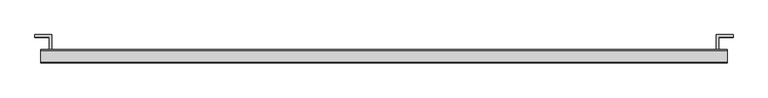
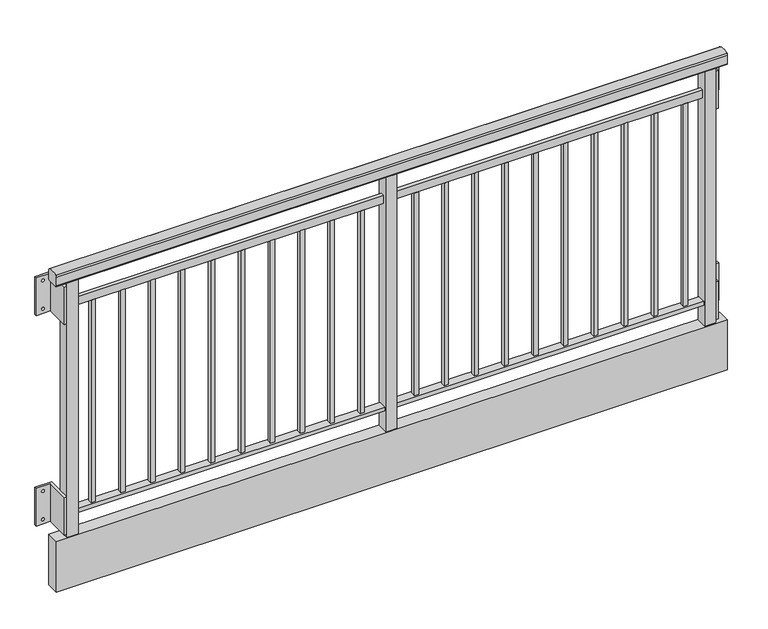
"""IFC4 building model written with IfcOpenShell, lengths in millimetres: proxy geometry, Specialty-Equipment_Endurable-Building-Products_Juliet-Balconies : Open Midrail Picket Railing."""

from ifc_helpers import new_model, si_unit, point, frame, frame_2d, origin, origin_with_axes, place, context, project, spatial, polyline, circle_curve, trimmed, segment, composite_curve, outline, extrude, source, transform, mapped, element, save
from ifc_brep_helpers import plane_surface, revolved_surface, advanced_brep


def specialty_equipment_468dc1dd(model_context):
    return source(origin(), model_context, "Body", "SolidModel", [
        extrude(outline(polyline([(1197.76875, -73.10755), (1197.76875, -87.22995), (21.43125, -87.22995), (21.43125, -73.10755), (1197.76875, -73.10755)])), frame((0.0, 0.0, 916.4066), z_axis=(0.0, 0.0, 1.0), x_axis=(1.0, 0.0, 0.0)), (0.0, 0.0, 1.0), 31.75),
        extrude(outline(polyline([(-1197.76875, -73.10755), (-21.43125, -73.10755), (-21.43125, -87.22995), (-1197.76875, -87.22995), (-1197.76875, -73.10755)])), frame((0.0, 0.0, 916.4066), z_axis=(0.0, 0.0, 1.0), x_axis=(1.0, 0.0, 0.0)), (0.0, 0.0, 1.0), 31.75),
        extrude(outline(polyline([(1140.22505, -72.23125), (1140.22505, -88.10625), (1124.35005, -88.10625), (1124.35005, -72.23125), (1140.22505, -72.23125)])), frame((0.0, 0.0, 97.5357165), z_axis=(0.0, 0.0, 1.0), x_axis=(1.0, 0.0, 0.0)), (0.0, 0.0, 1.0), 818.8523438),
        extrude(outline(polyline([(1025.92505, -72.23125), (1025.92505, -88.10625), (1010.05005, -88.10625), (1010.05005, -72.23125), (1025.92505, -72.23125)])), frame((0.0, 0.0, 97.5357165), z_axis=(0.0, 0.0, 1.0), x_axis=(1.0, 0.0, 0.0)), (0.0, 0.0, 1.0), 818.8523438),
        extrude(outline(polyline([(911.62505, -72.23125), (911.62505, -88.10625), (895.75005, -88.10625), (895.75005, -72.23125), (911.62505, -72.23125)])), frame((0.0, 0.0, 97.5357165), z_axis=(0.0, 0.0, 1.0), x_axis=(1.0, 0.0, 0.0)), (0.0, 0.0, 1.0), 818.8523438),
        extrude(outline(polyline([(797.32505, -72.23125), (797.32505, -88.10625), (781.45005, -88.10625), (781.45005, -72.23125), (797.32505, -72.23125)])), frame((0.0, 0.0, 97.5357165), z_axis=(0.0, 0.0, 1.0), x_axis=(1.0, 0.0, 0.0)), (0.0, 0.0, 1.0), 818.8523438),
        extrude(outline(polyline([(683.02505, -72.23125), (683.02505, -88.10625), (667.15005, -88.10625), (667.15005, -72.23125), (683.02505, -72.23125)])), frame((0.0, 0.0, 97.5357165), z_axis=(0.0, 0.0, 1.0), x_axis=(1.0, 0.0, 0.0)), (0.0, 0.0, 1.0), 818.8523438),
        extrude(outline(polyline([(568.72505, -72.23125), (568.72505, -88.10625), (552.85005, -88.10625), (552.85005, -72.23125), (568.72505, -72.23125)])), frame((0.0, 0.0, 97.5357165), z_axis=(0.0, 0.0, 1.0), x_axis=(1.0, 0.0, 0.0)), (0.0, 0.0, 1.0), 818.8523438),
        extrude(outline(polyline([(454.42505, -72.23125), (454.42505, -88.10625), (438.55005, -88.10625), (438.55005, -72.23125), (454.42505, -72.23125)])), frame((0.0, 0.0, 97.5357165), z_axis=(0.0, 0.0, 1.0), x_axis=(1.0, 0.0, 0.0)), (0.0, 0.0, 1.0), 818.8523438),
        extrude(outline(polyline([(340.12505, -72.23125), (340.12505, -88.10625), (324.25005, -88.10625), (324.25005, -72.23125), (340.12505, -72.23125)])), frame((0.0, 0.0, 97.5357165), z_axis=(0.0, 0.0, 1.0), x_axis=(1.0, 0.0, 0.0)), (0.0, 0.0, 1.0), 818.8523438),
        extrude(outline(polyline([(225.82505, -72.23125), (225.82505, -88.10625), (209.95005, -88.10625), (209.95005, -72.23125), (225.82505, -72.23125)])), frame((0.0, 0.0, 97.5357165), z_axis=(0.0, 0.0, 1.0), x_axis=(1.0, 0.0, 0.0)), (0.0, 0.0, 1.0), 818.8523438),
        extrude(outline(polyline([(-1140.22505, -72.23125), (-1124.35005, -72.23125), (-1124.35005, -88.10625), (-1140.22505, -88.10625), (-1140.22505, -72.23125)])), frame((0.0, 0.0, 97.536), z_axis=(0.0, 0.0, 1.0), x_axis=(1.0, 0.0, 0.0)), (0.0, 0.0, 1.0), 818.8523438),
        extrude(outline(polyline([(-1025.92505, -72.23125), (-1010.05005, -72.23125), (-1010.05005, -88.10625), (-1025.92505, -88.10625), (-1025.92505, -72.23125)])), frame((0.0, 0.0, 97.536), z_axis=(0.0, 0.0, 1.0), x_axis=(1.0, 0.0, 0.0)), (0.0, 0.0, 1.0), 818.8523438),
        extrude(outline(polyline([(-911.62505, -72.23125), (-895.75005, -72.23125), (-895.75005, -88.10625), (-911.62505, -88.10625), (-911.62505, -72.23125)])), frame((0.0, 0.0, 97.536), z_axis=(0.0, 0.0, 1.0), x_axis=(1.0, 0.0, 0.0)), (0.0, 0.0, 1.0), 818.8523438),
        extrude(outline(polyline([(-797.32505, -72.23125), (-781.45005, -72.23125), (-781.45005, -88.10625), (-797.32505, -88.10625), (-797.32505, -72.23125)])), frame((0.0, 0.0, 97.536), z_axis=(0.0, 0.0, 1.0), x_axis=(1.0, 0.0, 0.0)), (0.0, 0.0, 1.0), 818.8523438),
        extrude(outline(polyline([(-683.02505, -72.23125), (-667.15005, -72.23125), (-667.15005, -88.10625), (-683.02505, -88.10625), (-683.02505, -72.23125)])), frame((0.0, 0.0, 97.536), z_axis=(0.0, 0.0, 1.0), x_axis=(1.0, 0.0, 0.0)), (0.0, 0.0, 1.0), 818.8523438),
        extrude(outline(polyline([(-568.72505, -72.23125), (-552.85005, -72.23125), (-552.85005, -88.10625), (-568.72505, -88.10625), (-568.72505, -72.23125)])), frame((0.0, 0.0, 97.536), z_axis=(0.0, 0.0, 1.0), x_axis=(1.0, 0.0, 0.0)), (0.0, 0.0, 1.0), 818.8523438),
        extrude(outline(polyline([(-454.42505, -72.23125), (-438.55005, -72.23125), (-438.55005, -88.10625), (-454.42505, -88.10625), (-454.42505, -72.23125)])), frame((0.0, 0.0, 97.536), z_axis=(0.0, 0.0, 1.0), x_axis=(1.0, 0.0, 0.0)), (0.0, 0.0, 1.0), 818.8523438),
        extrude(outline(polyline([(-340.12505, -72.23125), (-324.25005, -72.23125), (-324.25005, -88.10625), (-340.12505, -88.10625), (-340.12505, -72.23125)])), frame((0.0, 0.0, 97.536), z_axis=(0.0, 0.0, 1.0), x_axis=(1.0, 0.0, 0.0)), (0.0, 0.0, 1.0), 818.8523438),
        extrude(outline(polyline([(-225.82505, -72.23125), (-209.95005, -72.23125), (-209.95005, -88.10625), (-225.82505, -88.10625), (-225.82505, -72.23125)])), frame((0.0, 0.0, 97.536), z_axis=(0.0, 0.0, 1.0), x_axis=(1.0, 0.0, 0.0)), (0.0, 0.0, 1.0), 818.8523438),
        extrude(outline(polyline([(111.52505, -72.23125), (111.52505, -88.10625), (95.65005, -88.10625), (95.65005, -72.23125), (111.52505, -72.23125)])), frame((0.0, 0.0, 97.5357165), z_axis=(0.0, 0.0, 1.0), x_axis=(1.0, 0.0, 0.0)), (0.0, 0.0, 1.0), 818.8523438),
        extrude(outline(polyline([(-111.52505, -72.23125), (-95.65005, -72.23125), (-95.65005, -88.10625), (-111.52505, -88.10625), (-111.52505, -72.23125)])), frame((0.0, 0.0, 97.536), z_axis=(0.0, 0.0, 1.0), x_axis=(1.0, 0.0, 0.0)), (0.0, 0.0, 1.0), 818.8523438),
        extrude(outline(polyline([(-1197.76875, -63.86195), (-21.43125, -63.86195), (-21.43125, -96.47555), (-1197.76875, -96.47555), (-1197.76875, -63.86195)])), frame((0.0, 0.0, 82.55), z_axis=(0.0, 0.0, 1.0), x_axis=(1.0, 0.0, 0.0)), (0.0, 0.0, 1.0), 14.986),
        extrude(outline(polyline([(21.43125, -58.7375), (21.43125, -101.6), (-21.43125, -101.6), (-21.43125, -58.7375), (21.43125, -58.7375)])), origin_with_axes(), (0.0, 0.0, 1.0), 1028.7),
        extrude(outline(polyline([(21.43125, -63.86195), (1197.76875, -63.86195), (1197.76875, -96.47555), (21.43125, -96.47555), (21.43125, -63.86195)])), frame((0.0, 0.0, 82.55), z_axis=(0.0, 0.0, 1.0), x_axis=(1.0, 0.0, 0.0)), (0.0, 0.0, 1.0), 14.986),
        extrude(outline(polyline([(1282.7, -54.76875), (1282.7, -105.56875), (-1282.7, -105.56875), (-1282.7, -54.76875), (1282.7, -54.76875)])), frame((0.0, 0.0, -203.2), z_axis=(0.0, 0.0, 1.0), x_axis=(1.0, 0.0, 0.0)), (0.0, 0.0, 1.0), 203.2),
        extrude(outline(polyline([(-1197.76875, -58.7375), (-1197.76875, -101.6), (-1240.63125, -101.6), (-1240.63125, -58.7375), (-1197.76875, -58.7375)])), origin_with_axes(), (0.0, 0.0, 1.0), 1028.7),
        extrude(outline(polyline([(1240.63125, -58.7375), (1240.63125, -101.6), (1197.76875, -101.6), (1197.76875, -58.7375), (1240.63125, -58.7375)])), origin_with_axes(), (0.0, 0.0, 1.0), 1028.7),
        extrude(outline(composite_curve([segment(polyline([(-54.76875, 1069.1003287), (-54.76875, 1035.05)]), True, "CONTINUOUS"), segment(trimmed(circle_curve(frame_2d((-61.11875, 1035.05)), 6.35), [point((-54.76875, 1035.05))], [point((-61.11875, 1028.7))], False, "CARTESIAN"), True, "CONTINUOUS"), segment(polyline([(-61.11875, 1028.7), (-99.21875, 1028.7)]), True, "CONTINUOUS"), segment(trimmed(circle_curve(frame_2d((-99.21875, 1035.05)), 6.35), [point((-99.21875, 1028.7))], [point((-105.56875, 1035.05))], False, "CARTESIAN"), True, "CONTINUOUS"), segment(polyline([(-105.56875, 1035.05), (-105.56875, 1069.1003287)]), True, "CONTINUOUS"), segment(trimmed(circle_curve(frame_2d((-99.21875, 1069.1003287)), 6.35), [point((-105.56875, 1069.1003287))], [point((-101.8018008, 1074.9012207))], False, "CARTESIAN"), True, "CONTINUOUS"), segment(trimmed(circle_curve(frame_2d((-80.16875, 1026.31875)), 53.18125), [point((-101.8018008, 1074.9012207))], [point((-58.5356992, 1074.9012207))], False, "CARTESIAN"), True, "CONTINUOUS"), segment(trimmed(circle_curve(frame_2d((-61.11875, 1069.1003287)), 6.35), [point((-58.5356992, 1074.9012207))], [point((-54.76875, 1069.1003287))], False, "CARTESIAN"), True, "CONTINUOUS")], self_intersect=False)), frame((-1282.7, 0.0, 0.0), z_axis=(1.0, 0.0, 0.0), x_axis=(0.0, 1.0, 0.0)), (0.0, 0.0, 1.0), 2565.4),
        advanced_brep(
        [(1240.63125, -101.6, 165.1), (1250.15625, -101.6, 165.1), (1250.15625, -9.525, 165.1), (1304.13125, -9.525, 165.1), (1304.13125, 0.0, 165.1), (1240.63125, 0.0, 165.1), (1240.63125, -101.6, 12.7), (1240.63125, 0.0, 12.7), (1304.13125, 0.0, 12.7), (1304.13125, -9.525, 12.7), (1250.15625, -9.525, 12.7), (1250.15625, -101.6, 12.7), (1273.175, 0.0, 146.05), (1284.2875, 0.0, 146.05), (1273.175, 0.0, 31.75), (1284.2875, 0.0, 31.75), (1284.2875, -9.525, 146.05), (1273.175, -9.525, 146.05), (1284.2875, -9.525, 31.75), (1273.175, -9.525, 31.75)],
        [
            (0, 1),
            (1, 2),
            (2, 3),
            (3, 4),
            (4, 5),
            (5, 0),
            (6, 7),
            (7, 8),
            (8, 9),
            (9, 10),
            (10, 11),
            (11, 6),
            (5, 7),
            (6, 0),
            (4, 8),
            (12, 13, circle_curve(frame((1278.73125, 0.0, 146.05), z_axis=(0.0, -1.0, 0.0), x_axis=(-1.0, 0.0, 0.0)), 5.55625)),
            (13, 12, circle_curve(frame((1278.73125, 0.0, 146.05), z_axis=(0.0, -1.0, 0.0), x_axis=(-1.0, 0.0, 0.0)), 5.55625)),
            (14, 15, circle_curve(frame((1278.73125, 0.0, 31.75), z_axis=(0.0, -1.0, 0.0), x_axis=(-1.0, 0.0, 0.0)), 5.55625)),
            (15, 14, circle_curve(frame((1278.73125, 0.0, 31.75), z_axis=(0.0, -1.0, 0.0), x_axis=(-1.0, 0.0, 0.0)), 5.55625)),
            (3, 9),
            (2, 10),
            (16, 17, circle_curve(frame((1278.73125, -9.525, 146.05), z_axis=(0.0, 1.0, 0.0), x_axis=(-1.0, 0.0, 0.0)), 5.55625)),
            (17, 16, circle_curve(frame((1278.73125, -9.525, 146.05), z_axis=(0.0, 1.0, 0.0), x_axis=(-1.0, 0.0, 0.0)), 5.55625)),
            (18, 19, circle_curve(frame((1278.73125, -9.525, 31.75), z_axis=(0.0, 1.0, 0.0), x_axis=(-1.0, 0.0, 0.0)), 5.55625)),
            (19, 18, circle_curve(frame((1278.73125, -9.525, 31.75), z_axis=(0.0, 1.0, 0.0), x_axis=(-1.0, 0.0, 0.0)), 5.55625)),
            (1, 11),
            (16, 13),
            (12, 17),
            (18, 15),
            (14, 19),
        ],
        [
            plane_surface(frame((1240.63125, -101.6, 165.1), z_axis=(0.0, 0.0, 1.0), x_axis=(1.0, 0.0, 0.0))),
            plane_surface(frame((1240.63125, -101.6, 12.7), z_axis=(0.0, 0.0, -1.0), x_axis=(-1.0, 0.0, 0.0))),
            plane_surface(frame((1240.63125, 0.0, 165.1), z_axis=(-1.0, 0.0, 0.0), x_axis=(0.0, 0.0, -1.0))),
            plane_surface(frame((1304.13125, 0.0, 165.1), z_axis=(0.0, 1.0, 0.0), x_axis=(0.0, 0.0, -1.0))),
            plane_surface(frame((1304.13125, -9.525, 165.1), z_axis=(1.0, 0.0, 0.0), x_axis=(0.0, 0.0, -1.0))),
            plane_surface(frame((1250.15625, -9.525, 165.1), z_axis=(0.0, -1.0, 0.0), x_axis=(0.0, 0.0, -1.0))),
            plane_surface(frame((1250.15625, -101.6, 165.1), z_axis=(1.0, 0.0, 0.0), x_axis=(0.0, 0.0, -1.0))),
            plane_surface(frame((1240.63125, -101.6, 165.1), z_axis=(0.0, -1.0, 0.0), x_axis=(0.0, 0.0, -1.0))),
            revolved_surface(polyline([(1273.175, -9.525, 146.05), (1273.175, 0.0, 146.05)]), (1278.73125, 0.0, 146.05), (0.0, -1.0, 0.0)),
            revolved_surface(polyline([(1273.175, -9.525, 31.75), (1273.175, 0.0, 31.75)]), (1278.73125, 0.0, 31.75), (0.0, -1.0, 0.0)),
        ],
        [
            (0, [[1, 2, 3, 4, 5, 6]]),
            (1, [[7, 8, 9, 10, 11, 12]]),
            (2, [[-6, 13, -7, 14]]),
            (3, [[-5, 15, -8, -13], [16, 17], [18, 19]]),
            (4, [[-4, 20, -9, -15]]),
            (5, [[-3, 21, -10, -20], [22, 23], [24, 25]]),
            (6, [[-2, 26, -11, -21]]),
            (7, [[-1, -14, -12, -26]]),
            (8, [[27, -16, 28, -22]]),
            (8, [[-27, -23, -28, -17]]),
            (9, [[29, -18, 30, -24]]),
            (9, [[-29, -25, -30, -19]]),
        ],
    ),
        advanced_brep(
        [(1240.63125, -101.6, 1016.0), (1250.15625, -101.6, 1016.0), (1250.15625, -9.525, 1016.0), (1304.13125, -9.525, 1016.0), (1304.13125, 0.0, 1016.0), (1240.63125, 0.0, 1016.0), (1240.63125, -101.6, 863.6), (1240.63125, 0.0, 863.6), (1304.13125, 0.0, 863.6), (1304.13125, -9.525, 863.6), (1250.15625, -9.525, 863.6), (1250.15625, -101.6, 863.6), (1273.175, 0.0, 996.95), (1284.2875, 0.0, 996.95), (1273.175, 0.0, 882.65), (1284.2875, 0.0, 882.65), (1284.2875, -9.525, 996.95), (1273.175, -9.525, 996.95), (1284.2875, -9.525, 882.65), (1273.175, -9.525, 882.65)],
        [
            (0, 1),
            (1, 2),
            (2, 3),
            (3, 4),
            (4, 5),
            (5, 0),
            (6, 7),
            (7, 8),
            (8, 9),
            (9, 10),
            (10, 11),
            (11, 6),
            (5, 7),
            (6, 0),
            (4, 8),
            (12, 13, circle_curve(frame((1278.73125, 0.0, 996.95), z_axis=(0.0, -1.0, 0.0), x_axis=(-1.0, 0.0, 0.0)), 5.55625)),
            (13, 12, circle_curve(frame((1278.73125, 0.0, 996.95), z_axis=(0.0, -1.0, 0.0), x_axis=(-1.0, 0.0, 0.0)), 5.55625)),
            (14, 15, circle_curve(frame((1278.73125, 0.0, 882.65), z_axis=(0.0, -1.0, 0.0), x_axis=(-1.0, 0.0, 0.0)), 5.55625)),
            (15, 14, circle_curve(frame((1278.73125, 0.0, 882.65), z_axis=(0.0, -1.0, 0.0), x_axis=(-1.0, 0.0, 0.0)), 5.55625)),
            (3, 9),
            (2, 10),
            (16, 17, circle_curve(frame((1278.73125, -9.525, 996.95), z_axis=(0.0, 1.0, 0.0), x_axis=(-1.0, 0.0, 0.0)), 5.55625)),
            (17, 16, circle_curve(frame((1278.73125, -9.525, 996.95), z_axis=(0.0, 1.0, 0.0), x_axis=(-1.0, 0.0, 0.0)), 5.55625)),
            (18, 19, circle_curve(frame((1278.73125, -9.525, 882.65), z_axis=(0.0, 1.0, 0.0), x_axis=(-1.0, 0.0, 0.0)), 5.55625)),
            (19, 18, circle_curve(frame((1278.73125, -9.525, 882.65), z_axis=(0.0, 1.0, 0.0), x_axis=(-1.0, 0.0, 0.0)), 5.55625)),
            (1, 11),
            (16, 13),
            (12, 17),
            (18, 15),
            (14, 19),
        ],
        [
            plane_surface(frame((1240.63125, -101.6, 1016.0), z_axis=(0.0, 0.0, 1.0), x_axis=(1.0, 0.0, 0.0))),
            plane_surface(frame((1240.63125, -101.6, 863.6), z_axis=(0.0, 0.0, -1.0), x_axis=(-1.0, 0.0, 0.0))),
            plane_surface(frame((1240.63125, 0.0, 1016.0), z_axis=(-1.0, 0.0, 0.0), x_axis=(0.0, 0.0, -1.0))),
            plane_surface(frame((1304.13125, 0.0, 1016.0), z_axis=(0.0, 1.0, 0.0), x_axis=(0.0, 0.0, -1.0))),
            plane_surface(frame((1304.13125, -9.525, 1016.0), z_axis=(1.0, 0.0, 0.0), x_axis=(0.0, 0.0, -1.0))),
            plane_surface(frame((1250.15625, -9.525, 1016.0), z_axis=(0.0, -1.0, 0.0), x_axis=(0.0, 0.0, -1.0))),
            plane_surface(frame((1250.15625, -101.6, 1016.0), z_axis=(1.0, 0.0, 0.0), x_axis=(0.0, 0.0, -1.0))),
            plane_surface(frame((1240.63125, -101.6, 1016.0), z_axis=(0.0, -1.0, 0.0), x_axis=(0.0, 0.0, -1.0))),
            revolved_surface(polyline([(1273.175, -9.525, 996.95), (1273.175, 0.0, 996.95)]), (1278.73125, 0.0, 996.95), (0.0, -1.0, 0.0)),
            revolved_surface(polyline([(1273.175, -9.525, 882.65), (1273.175, 0.0, 882.65)]), (1278.73125, 0.0, 882.65), (0.0, -1.0, 0.0)),
        ],
        [
            (0, [[1, 2, 3, 4, 5, 6]]),
            (1, [[7, 8, 9, 10, 11, 12]]),
            (2, [[-6, 13, -7, 14]]),
            (3, [[-5, 15, -8, -13], [16, 17], [18, 19]]),
            (4, [[-4, 20, -9, -15]]),
            (5, [[-3, 21, -10, -20], [22, 23], [24, 25]]),
            (6, [[-2, 26, -11, -21]]),
            (7, [[-1, -14, -12, -26]]),
            (8, [[27, -16, 28, -22]]),
            (8, [[-27, -23, -28, -17]]),
            (9, [[29, -18, 30, -24]]),
            (9, [[-29, -25, -30, -19]]),
        ],
    ),
        advanced_brep(
        [(-1240.63125, -101.6, 165.1), (-1240.63125, 0.0, 165.1), (-1304.13125, 0.0, 165.1), (-1304.13125, -9.525, 165.1), (-1250.15625, -9.525, 165.1), (-1250.15625, -101.6, 165.1), (-1240.63125, -101.6, 12.7), (-1250.15625, -101.6, 12.7), (-1250.15625, -9.525, 12.7), (-1304.13125, -9.525, 12.7), (-1304.13125, 0.0, 12.7), (-1240.63125, 0.0, 12.7), (-1284.2875, 0.0, 146.05), (-1273.175, 0.0, 146.05), (-1284.2875, 0.0, 31.75), (-1273.175, 0.0, 31.75), (-1273.175, -9.525, 146.05), (-1284.2875, -9.525, 146.05), (-1273.175, -9.525, 31.75), (-1284.2875, -9.525, 31.75)],
        [
            (0, 1),
            (1, 2),
            (2, 3),
            (3, 4),
            (4, 5),
            (5, 0),
            (6, 7),
            (7, 8),
            (8, 9),
            (9, 10),
            (10, 11),
            (11, 6),
            (0, 6),
            (11, 1),
            (10, 2),
            (12, 13, circle_curve(frame((-1278.73125, 0.0, 146.05), z_axis=(0.0, -1.0, 0.0), x_axis=(1.0, 0.0, 0.0)), 5.55625)),
            (13, 12, circle_curve(frame((-1278.73125, 0.0, 146.05), z_axis=(0.0, -1.0, 0.0), x_axis=(1.0, 0.0, 0.0)), 5.55625)),
            (14, 15, circle_curve(frame((-1278.73125, 0.0, 31.75), z_axis=(0.0, -1.0, 0.0), x_axis=(1.0, 0.0, 0.0)), 5.55625)),
            (15, 14, circle_curve(frame((-1278.73125, 0.0, 31.75), z_axis=(0.0, -1.0, 0.0), x_axis=(1.0, 0.0, 0.0)), 5.55625)),
            (9, 3),
            (8, 4),
            (16, 17, circle_curve(frame((-1278.73125, -9.525, 146.05), z_axis=(0.0, 1.0, 0.0), x_axis=(1.0, 0.0, 0.0)), 5.55625)),
            (17, 16, circle_curve(frame((-1278.73125, -9.525, 146.05), z_axis=(0.0, 1.0, 0.0), x_axis=(1.0, 0.0, 0.0)), 5.55625)),
            (18, 19, circle_curve(frame((-1278.73125, -9.525, 31.75), z_axis=(0.0, 1.0, 0.0), x_axis=(1.0, 0.0, 0.0)), 5.55625)),
            (19, 18, circle_curve(frame((-1278.73125, -9.525, 31.75), z_axis=(0.0, 1.0, 0.0), x_axis=(1.0, 0.0, 0.0)), 5.55625)),
            (7, 5),
            (16, 13),
            (12, 17),
            (18, 15),
            (14, 19),
        ],
        [
            plane_surface(frame((-1240.63125, 0.0, 165.1), z_axis=(0.0, 0.0, 1.0), x_axis=(0.0, 1.0, 0.0))),
            plane_surface(frame((-1240.63125, 0.0, 12.7), z_axis=(0.0, 0.0, -1.0), x_axis=(0.0, -1.0, 0.0))),
            plane_surface(frame((-1240.63125, -101.6, 165.1), z_axis=(1.0, 0.0, 0.0), x_axis=(0.0, 0.0, -1.0))),
            plane_surface(frame((-1240.63125, 0.0, 165.1), z_axis=(0.0, 1.0, 0.0), x_axis=(0.0, 0.0, -1.0))),
            plane_surface(frame((-1304.13125, 0.0, 165.1), z_axis=(-1.0, 0.0, 0.0), x_axis=(0.0, 0.0, -1.0))),
            plane_surface(frame((-1304.13125, -9.525, 165.1), z_axis=(0.0, -1.0, 0.0), x_axis=(0.0, 0.0, -1.0))),
            plane_surface(frame((-1250.15625, -9.525, 165.1), z_axis=(-1.0, 0.0, 0.0), x_axis=(0.0, 0.0, -1.0))),
            plane_surface(frame((-1250.15625, -101.6, 165.1), z_axis=(0.0, -1.0, 0.0), x_axis=(0.0, 0.0, -1.0))),
            revolved_surface(polyline([(-1273.175, -9.525, 146.05), (-1273.175, 0.0, 146.05)]), (-1278.73125, 0.0, 146.05), (0.0, -1.0, 0.0)),
            revolved_surface(polyline([(-1273.175, -9.525, 31.75), (-1273.175, 0.0, 31.75)]), (-1278.73125, 0.0, 31.75), (0.0, -1.0, 0.0)),
        ],
        [
            (0, [[1, 2, 3, 4, 5, 6]]),
            (1, [[7, 8, 9, 10, 11, 12]]),
            (2, [[-1, 13, -12, 14]]),
            (3, [[-2, -14, -11, 15], [16, 17], [18, 19]]),
            (4, [[-3, -15, -10, 20]]),
            (5, [[-4, -20, -9, 21], [22, 23], [24, 25]]),
            (6, [[-5, -21, -8, 26]]),
            (7, [[-6, -26, -7, -13]]),
            (8, [[27, -16, 28, -22]]),
            (8, [[-27, -23, -28, -17]]),
            (9, [[29, -18, 30, -24]]),
            (9, [[-29, -25, -30, -19]]),
        ],
    ),
        advanced_brep(
        [(-1240.63125, -101.6, 1016.0), (-1240.63125, 0.0, 1016.0), (-1304.13125, 0.0, 1016.0), (-1304.13125, -9.525, 1016.0), (-1250.15625, -9.525, 1016.0), (-1250.15625, -101.6, 1016.0), (-1240.63125, -101.6, 863.6), (-1250.15625, -101.6, 863.6), (-1250.15625, -9.525, 863.6), (-1304.13125, -9.525, 863.6), (-1304.13125, 0.0, 863.6), (-1240.63125, 0.0, 863.6), (-1284.2875, 0.0, 996.95), (-1273.175, 0.0, 996.95), (-1284.2875, 0.0, 882.65), (-1273.175, 0.0, 882.65), (-1273.175, -9.525, 996.95), (-1284.2875, -9.525, 996.95), (-1273.175, -9.525, 882.65), (-1284.2875, -9.525, 882.65)],
        [
            (0, 1),
            (1, 2),
            (2, 3),
            (3, 4),
            (4, 5),
            (5, 0),
            (6, 7),
            (7, 8),
            (8, 9),
            (9, 10),
            (10, 11),
            (11, 6),
            (0, 6),
            (11, 1),
            (10, 2),
            (12, 13, circle_curve(frame((-1278.73125, 0.0, 996.95), z_axis=(0.0, -1.0, 0.0), x_axis=(1.0, 0.0, 0.0)), 5.55625)),
            (13, 12, circle_curve(frame((-1278.73125, 0.0, 996.95), z_axis=(0.0, -1.0, 0.0), x_axis=(1.0, 0.0, 0.0)), 5.55625)),
            (14, 15, circle_curve(frame((-1278.73125, 0.0, 882.65), z_axis=(0.0, -1.0, 0.0), x_axis=(1.0, 0.0, 0.0)), 5.55625)),
            (15, 14, circle_curve(frame((-1278.73125, 0.0, 882.65), z_axis=(0.0, -1.0, 0.0), x_axis=(1.0, 0.0, 0.0)), 5.55625)),
            (9, 3),
            (8, 4),
            (16, 17, circle_curve(frame((-1278.73125, -9.525, 996.95), z_axis=(0.0, 1.0, 0.0), x_axis=(1.0, 0.0, 0.0)), 5.55625)),
            (17, 16, circle_curve(frame((-1278.73125, -9.525, 996.95), z_axis=(0.0, 1.0, 0.0), x_axis=(1.0, 0.0, 0.0)), 5.55625)),
            (18, 19, circle_curve(frame((-1278.73125, -9.525, 882.65), z_axis=(0.0, 1.0, 0.0), x_axis=(1.0, 0.0, 0.0)), 5.55625)),
            (19, 18, circle_curve(frame((-1278.73125, -9.525, 882.65), z_axis=(0.0, 1.0, 0.0), x_axis=(1.0, 0.0, 0.0)), 5.55625)),
            (7, 5),
            (16, 13),
            (12, 17),
            (18, 15),
            (14, 19),
        ],
        [
            plane_surface(frame((-1240.63125, 0.0, 1016.0), z_axis=(0.0, 0.0, 1.0), x_axis=(0.0, 1.0, 0.0))),
            plane_surface(frame((-1240.63125, 0.0, 863.6), z_axis=(0.0, 0.0, -1.0), x_axis=(0.0, -1.0, 0.0))),
            plane_surface(frame((-1240.63125, -101.6, 1016.0), z_axis=(1.0, 0.0, 0.0), x_axis=(0.0, 0.0, -1.0))),
            plane_surface(frame((-1240.63125, 0.0, 1016.0), z_axis=(0.0, 1.0, 0.0), x_axis=(0.0, 0.0, -1.0))),
            plane_surface(frame((-1304.13125, 0.0, 1016.0), z_axis=(-1.0, 0.0, 0.0), x_axis=(0.0, 0.0, -1.0))),
            plane_surface(frame((-1304.13125, -9.525, 1016.0), z_axis=(0.0, -1.0, 0.0), x_axis=(0.0, 0.0, -1.0))),
            plane_surface(frame((-1250.15625, -9.525, 1016.0), z_axis=(-1.0, 0.0, 0.0), x_axis=(0.0, 0.0, -1.0))),
            plane_surface(frame((-1250.15625, -101.6, 1016.0), z_axis=(0.0, -1.0, 0.0), x_axis=(0.0, 0.0, -1.0))),
            revolved_surface(polyline([(-1273.175, -9.525, 996.95), (-1273.175, 0.0, 996.95)]), (-1278.73125, 0.0, 996.95), (0.0, -1.0, 0.0)),
            revolved_surface(polyline([(-1273.175, -9.525, 882.65), (-1273.175, 0.0, 882.65)]), (-1278.73125, 0.0, 882.65), (0.0, -1.0, 0.0)),
        ],
        [
            (0, [[1, 2, 3, 4, 5, 6]]),
            (1, [[7, 8, 9, 10, 11, 12]]),
            (2, [[-1, 13, -12, 14]]),
            (3, [[-2, -14, -11, 15], [16, 17], [18, 19]]),
            (4, [[-3, -15, -10, 20]]),
            (5, [[-4, -20, -9, 21], [22, 23], [24, 25]]),
            (6, [[-5, -21, -8, 26]]),
            (7, [[-6, -26, -7, -13]]),
            (8, [[27, -16, 28, -22]]),
            (8, [[-27, -23, -28, -17]]),
            (9, [[29, -18, 30, -24]]),
            (9, [[-29, -25, -30, -19]]),
        ],
    ),
    ])


if __name__ == "__main__":
    model = new_model("IFC4")
    model_context = context("Model", 3, world=origin())
    ifc_project = project(units=[si_unit("LENGTHUNIT", "METRE", prefix="MILLI")], contexts=[model_context])
    site = spatial("IfcSite", under=ifc_project)
    building = spatial("IfcBuilding", under=site)
    placement = place(None, origin())
    specialty_equipment_shape = specialty_equipment_468dc1dd(model_context)
    element("IfcBuildingElementProxy", 1, Name="Specialty-Equipment_Endurable-Building-Products_Juliet-Balconies : Open Midrail Picket Railing", ObjectType="Specialty-Equipment_Endurable-Building-Products_Juliet-Balconies : Open Midrail Picket Railing", at=placement, inside=building, context=model_context, shape_type="MappedRepresentation", body=[
        mapped(specialty_equipment_shape, transform((0.0, 0.0, 0.0), x_axis=(1.0, 0.0, 0.0), y_axis=(0.0, 1.0, 0.0), z_axis=(0.0, 0.0, 1.0))),
    ])
    save(model, "model.ifc")
